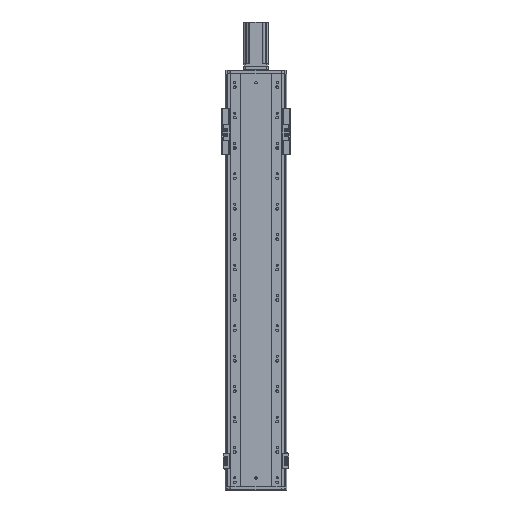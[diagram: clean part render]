
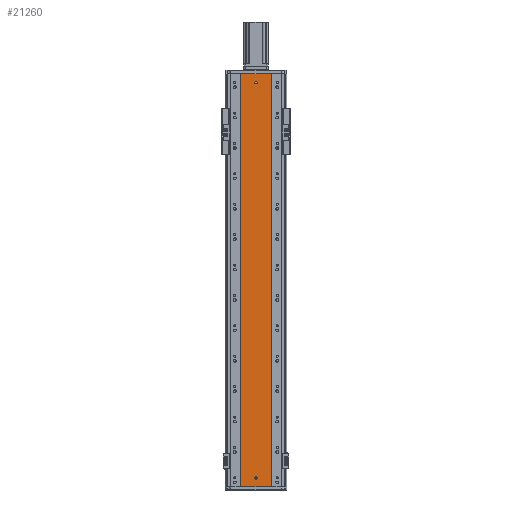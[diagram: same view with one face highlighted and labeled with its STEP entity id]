
A CAD part, front view. The second image highlights one B-rep face of the part: STEP entity #21260.
In plain terms, the highlighted planar face has unit normal (0, -1, 0).
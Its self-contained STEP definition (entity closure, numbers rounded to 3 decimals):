
#1142 = PLANE ( 'NONE',  #47412 ) ;
#1161 = DIRECTION ( 'NONE',  ( 0., 1., 0. ) ) ;
#1168 = CARTESIAN_POINT ( 'NONE',  ( 0., 79.476, 1360. ) ) ;
#1170 = DIRECTION ( 'NONE',  ( 0., 0., 1. ) ) ;
#5793 = ORIENTED_EDGE ( 'NONE', *, *, #38384, .T. ) ;
#5801 = ORIENTED_EDGE ( 'NONE', *, *, #38336, .F. ) ;
#5809 = ORIENTED_EDGE ( 'NONE', *, *, #43139, .F. ) ;
#5854 = ORIENTED_EDGE ( 'NONE', *, *, #38338, .F. ) ;
#5861 = ORIENTED_EDGE ( 'NONE', *, *, #38337, .F. ) ;
#5863 = ORIENTED_EDGE ( 'NONE', *, *, #43120, .F. ) ;
#5867 = ORIENTED_EDGE ( 'NONE', *, *, #38364, .F. ) ;
#5869 = ORIENTED_EDGE ( 'NONE', *, *, #38345, .T. ) ;
#7177 = AXIS2_PLACEMENT_3D ( 'NONE', #11042, #11005, #11026 ) ;
#7243 = AXIS2_PLACEMENT_3D ( 'NONE', #11094, #11098, #11074 ) ;
#9661 = DIRECTION ( 'NONE',  ( 0., -1., 0. ) ) ;
#9682 = DIRECTION ( 'NONE',  ( 0., 0., -1. ) ) ;
#9688 = CARTESIAN_POINT ( 'NONE',  ( 136.47, 79.476, 1330. ) ) ;
#11004 = CARTESIAN_POINT ( 'NONE',  ( 185.97, 79.476, 0. ) ) ;
#11005 = DIRECTION ( 'NONE',  ( 0., -1., 0. ) ) ;
#11014 = CARTESIAN_POINT ( 'NONE',  ( 185.97, 79.476, 1360. ) ) ;
#11016 = DIRECTION ( 'NONE',  ( 1., 0., 0. ) ) ;
#11026 = DIRECTION ( 'NONE',  ( 0., 0., -1. ) ) ;
#11027 = CARTESIAN_POINT ( 'NONE',  ( 185.97, 79.476, 453.333 ) ) ;
#11032 = CARTESIAN_POINT ( 'NONE',  ( 0., 79.476, 1360. ) ) ;
#11033 = DIRECTION ( 'NONE',  ( 1., 0., 0. ) ) ;
#11034 = CARTESIAN_POINT ( 'NONE',  ( 185.97, 79.476, 906.667 ) ) ;
#11036 = CARTESIAN_POINT ( 'NONE',  ( 0., 79.476, 0. ) ) ;
#11042 = CARTESIAN_POINT ( 'NONE',  ( 136.47, 79.476, 1330. ) ) ;
#11074 = DIRECTION ( 'NONE',  ( 0., 0., -1. ) ) ;
#11094 = CARTESIAN_POINT ( 'NONE',  ( 136.47, 79.476, 30. ) ) ;
#11098 = DIRECTION ( 'NONE',  ( 0., -1., 0. ) ) ;
#11118 = CARTESIAN_POINT ( 'NONE',  ( 86.97, 79.476, 1360. ) ) ;
#11128 = CARTESIAN_POINT ( 'NONE',  ( 86.97, 79.476, 906.667 ) ) ;
#11137 = CARTESIAN_POINT ( 'NONE',  ( 86.97, 79.476, 0. ) ) ;
#11143 = CARTESIAN_POINT ( 'NONE',  ( 86.97, 79.476, 453.333 ) ) ;
#12411 = CARTESIAN_POINT ( 'NONE',  ( 185.97, 79.476, 1360. ) ) ;
#12427 = CARTESIAN_POINT ( 'NONE',  ( 185.97, 79.476, 0. ) ) ;
#12428 = CARTESIAN_POINT ( 'NONE',  ( 86.97, 79.476, 0. ) ) ;
#12437 = CARTESIAN_POINT ( 'NONE',  ( 86.97, 79.476, 1360. ) ) ;
#13064 = CARTESIAN_POINT ( 'NONE',  ( 136.47, 79.476, 1334. ) ) ;
#13570 = VECTOR ( 'NONE', #11033, 1000. ) ;
#13573 = VECTOR ( 'NONE', #11016, 1000. ) ;
#13578 = LINE ( 'NONE', #11032, #13570 ) ;
#13589 = CIRCLE ( 'NONE', #7177, 4. ) ;
#13596 = LINE ( 'NONE', #11036, #13573 ) ;
#13650 = CIRCLE ( 'NONE', #7243, 4. ) ;
#15363 = EDGE_LOOP ( 'NONE', ( #5854, #5809 ) ) ;
#15398 = EDGE_LOOP ( 'NONE', ( #5867, #5863 ) ) ;
#15436 = EDGE_LOOP ( 'NONE', ( #5869, #5801, #5861, #5793 ) ) ;
#20064 = CIRCLE ( 'NONE', #39377, 4. ) ;
#20069 = CIRCLE ( 'NONE', #39400, 4. ) ;
#21260 = ADVANCED_FACE ( 'NONE', ( #35039, #35041, #35035 ), #1142, .F. ) ;
#22281 = VERTEX_POINT ( 'NONE', #12427 ) ;
#22291 = VERTEX_POINT ( 'NONE', #12437 ) ;
#22305 = VERTEX_POINT ( 'NONE', #12411 ) ;
#22317 = VERTEX_POINT ( 'NONE', #12428 ) ;
#23372 = VERTEX_POINT ( 'NONE', #13064 ) ;
#23421 = VERTEX_POINT ( 'NONE', #48206 ) ;
#23435 = VERTEX_POINT ( 'NONE', #48089 ) ;
#23480 = VERTEX_POINT ( 'NONE', #48127 ) ;
#35035 = FACE_OUTER_BOUND ( 'NONE', #15436, .T. ) ;
#35039 = FACE_BOUND ( 'NONE', #15363, .T. ) ;
#35041 = FACE_BOUND ( 'NONE', #15398, .T. ) ;
#38336 = EDGE_CURVE ( 'NONE', #22305, #22281, #43377, .T. ) ;
#38337 = EDGE_CURVE ( 'NONE', #22291, #22305, #13578, .T. ) ;
#38338 = EDGE_CURVE ( 'NONE', #23421, #23372, #13589, .T. ) ;
#38345 = EDGE_CURVE ( 'NONE', #22317, #22281, #13596, .T. ) ;
#38364 = EDGE_CURVE ( 'NONE', #23435, #23480, #13650, .T. ) ;
#38384 = EDGE_CURVE ( 'NONE', #22291, #22317, #43378, .T. ) ;
#39377 = AXIS2_PLACEMENT_3D ( 'NONE', #9688, #9661, #9682 ) ;
#39400 = AXIS2_PLACEMENT_3D ( 'NONE', #40835, #40839, #40855 ) ;
#40835 = CARTESIAN_POINT ( 'NONE',  ( 136.47, 79.476, 30. ) ) ;
#40839 = DIRECTION ( 'NONE',  ( 0., -1., 0. ) ) ;
#40855 = DIRECTION ( 'NONE',  ( 0., 0., -1. ) ) ;
#43120 = EDGE_CURVE ( 'NONE', #23480, #23435, #20069, .T. ) ;
#43139 = EDGE_CURVE ( 'NONE', #23372, #23421, #20064, .T. ) ;
#43377 = B_SPLINE_CURVE_WITH_KNOTS ( 'NONE', 3,
 ( #11014, #11034, #11027, #11004 ),
 .UNSPECIFIED., .F., .F.,
 ( 4, 4 ),
 ( 0., 1. ),
 .UNSPECIFIED. ) ;
#43378 = B_SPLINE_CURVE_WITH_KNOTS ( 'NONE', 3,
 ( #11118, #11128, #11143, #11137 ),
 .UNSPECIFIED., .F., .F.,
 ( 4, 4 ),
 ( 0., 1. ),
 .UNSPECIFIED. ) ;
#47412 = AXIS2_PLACEMENT_3D ( 'NONE', #1168, #1161, #1170 ) ;
#48089 = CARTESIAN_POINT ( 'NONE',  ( 136.47, 79.476, 26. ) ) ;
#48127 = CARTESIAN_POINT ( 'NONE',  ( 136.47, 79.476, 34. ) ) ;
#48206 = CARTESIAN_POINT ( 'NONE',  ( 136.47, 79.476, 1326. ) ) ;
